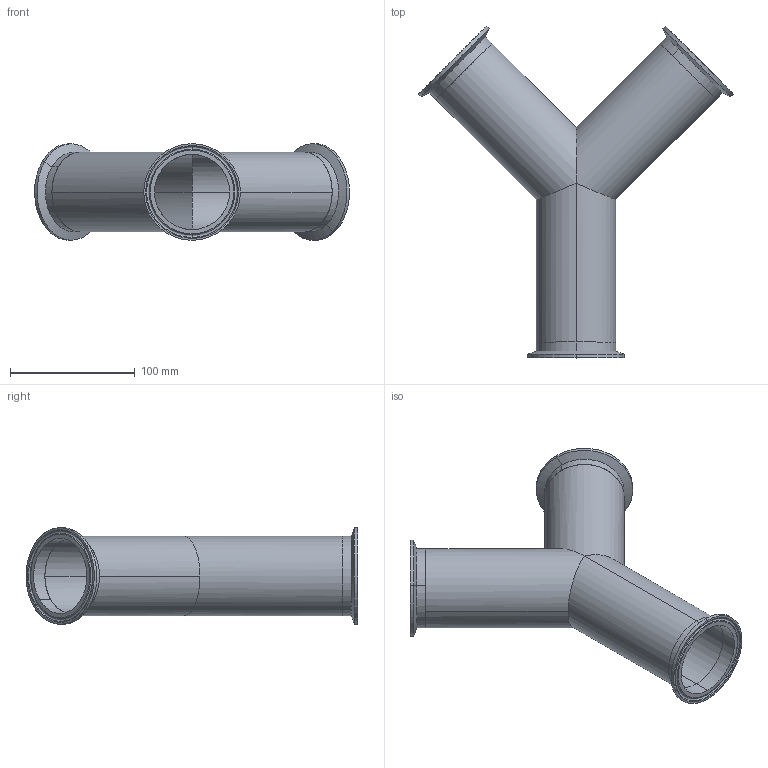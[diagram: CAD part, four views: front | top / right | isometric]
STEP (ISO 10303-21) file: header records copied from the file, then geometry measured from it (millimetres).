
FILE_DESCRIPTION (( 'STEP AP203' ), '1' );
FILE_NAME ('EG28B 2.5.STEP', '2021-10-08T19:23:35', ( '' ), ( '' ), 'SwSTEP 2.0', 'SolidWorks 2021', '' );
FILE_SCHEMA (( 'CONFIG_CONTROL_DESIGN' ));
Length unit declared in the file: inch
Products named in the file (3): EG2CS2.5; V28WB2.5; EG28B 2.5
Assembly tree (4 placements, depth 2):
  EG28B 2.5
    V28WB2.5
    EG2CS2.5  x3
Bounding box: 252.2 x 265.84 x 77.39 mm (x, y, z)
Volume: 140080.3 mm3; surface area: 160779.4 mm2
Topology: 4 solids, 4 shells, 66 faces, 138 edges, 82 vertices
Faces by surface type: cylinder 30, torus 18, plane 12, cone 6
Entity records: 1267 total; most frequent: CARTESIAN_POINT 187, DIRECTION 174, ORIENTED_EDGE 140, AXIS2_PLACEMENT_3D 77, EDGE_CURVE 70, VERTEX_POINT 42, CIRCLE 38, EDGE_LOOP 38
